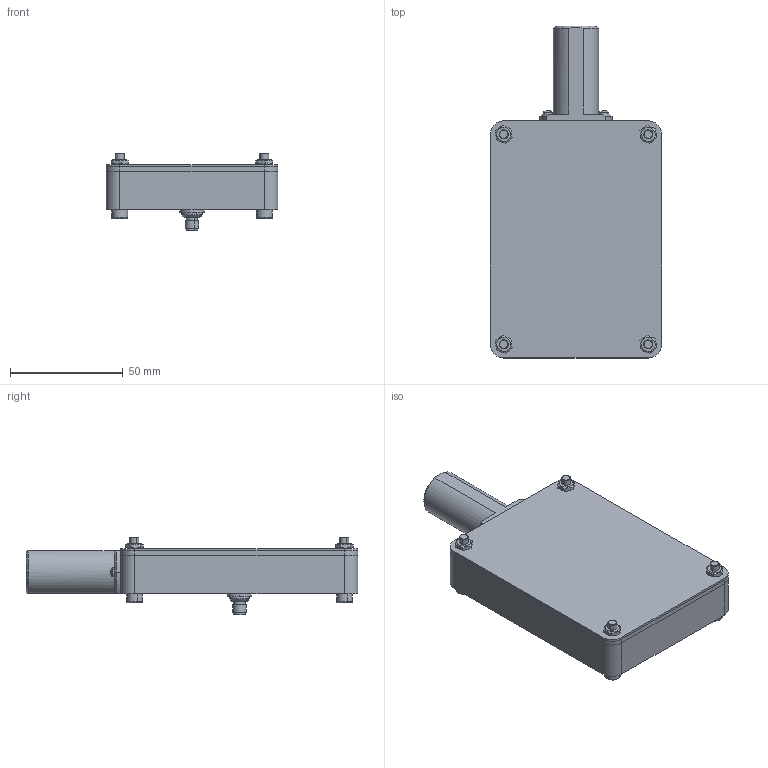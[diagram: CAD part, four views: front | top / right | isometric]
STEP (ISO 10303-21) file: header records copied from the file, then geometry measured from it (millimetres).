
FILE_DESCRIPTION (( 'STEP AP203' ), '1' );
FILE_NAME ('7ILM3¹¯µÆ¹âÔ´.STEP', '2020-02-19T06:02:28', ( '' ), ( '' ), 'SwSTEP 2.0', 'SolidWorks 2018', '' );
FILE_SCHEMA (( 'CONFIG_CONTROL_DESIGN' ));
Length unit declared in the file: millimetre
Products named in the file (1): 7ILM3僖腑嫖埭
Bounding box: 76 x 147 x 34.3 mm (x, y, z)
Volume: 112060.3 mm3; surface area: 71912.9 mm2
Topology: 17 solids, 17 shells, 422 faces, 1019 edges, 636 vertices
Faces by surface type: plane 174, cylinder 155, cone 75, torus 12, sphere 6
Entity records: 12704 total; most frequent: CARTESIAN_POINT 2558, DIRECTION 2219, ORIENTED_EDGE 1998, EDGE_CURVE 999, AXIS2_PLACEMENT_3D 879, VERTEX_POINT 636, EDGE_LOOP 509, LINE 461
